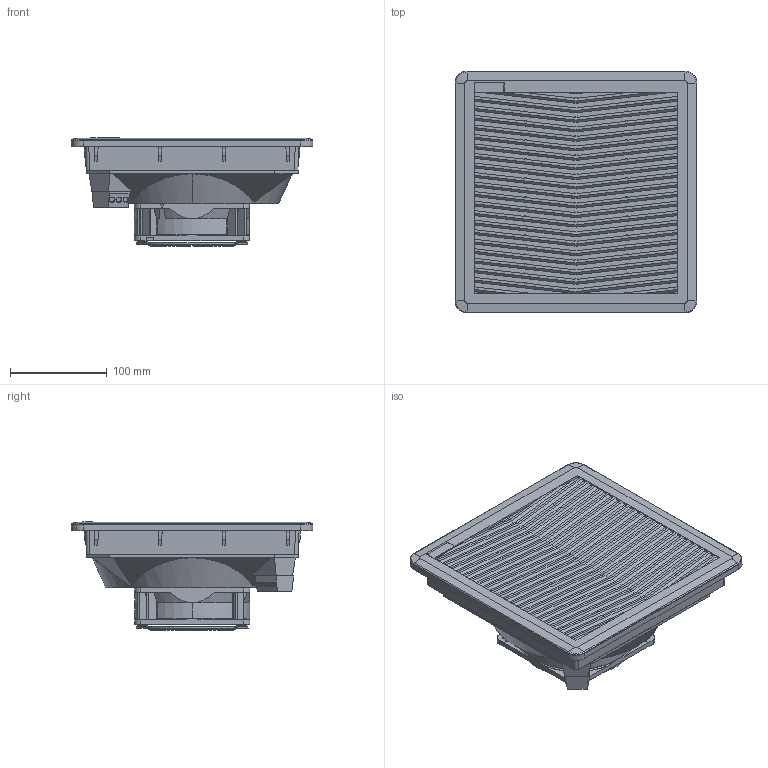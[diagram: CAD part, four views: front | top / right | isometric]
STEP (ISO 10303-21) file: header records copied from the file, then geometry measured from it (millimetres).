
FILE_DESCRIPTION (( 'STEP AP214' ), '1' );
FILE_NAME ('FF15PDxxyNR.STEP', '2023-10-04T08:12:28', ( '' ), ( '' ), 'SwSTEP 2.0', 'SolidWorks 2022', '' );
FILE_SCHEMA (( 'AUTOMOTIVE_DESIGN' ));
Length unit declared in the file: millimetre
Products named in the file (9): DT-02371DSI_Semplificato; FF15PDxxyNR; DT-04082DSI_mostrina semplificata; DT-01853DSI_Semplificata; DT-02106DSI_P15*FPF-nnnn semplificata; DT-03230DSI_Assieme semplificato; 040013_LK_980-01-3_morsettiera semplificata; DT-00159DSI_Base semplificata; DT-00158DSI_Sede etichetta semplificato
Assembly tree (8 placements, depth 3):
  FF15PDxxyNR
    DT-03230DSI_Assieme semplificato
      DT-00159DSI_Base semplificata
      DT-00158DSI_Sede etichetta semplificato
      DT-04082DSI_mostrina semplificata
    DT-02106DSI_P15*FPF-nnnn semplificata
    DT-02371DSI_Semplificato
    040013_LK_980-01-3_morsettiera semplificata
    DT-01853DSI_Semplificata
Bounding box: 250.12 x 250.08 x 111.7 mm (x, y, z)
Volume: 2732665.3 mm3; surface area: 500446.4 mm2
Topology: 5 solids, 7 shells, 917 faces, 2617 edges, 1726 vertices
Faces by surface type: plane 704, bspline 89, cylinder 88, cone 31, torus 5
Entity records: 42998 total; most frequent: CARTESIAN_POINT 18846, ORIENTED_EDGE 5230, DIRECTION 3284, EDGE_CURVE 2615, VERTEX_POINT 1726, VECTOR 1350, LINE 1350, B_SPLINE_CURVE_WITH_KNOTS 1071
